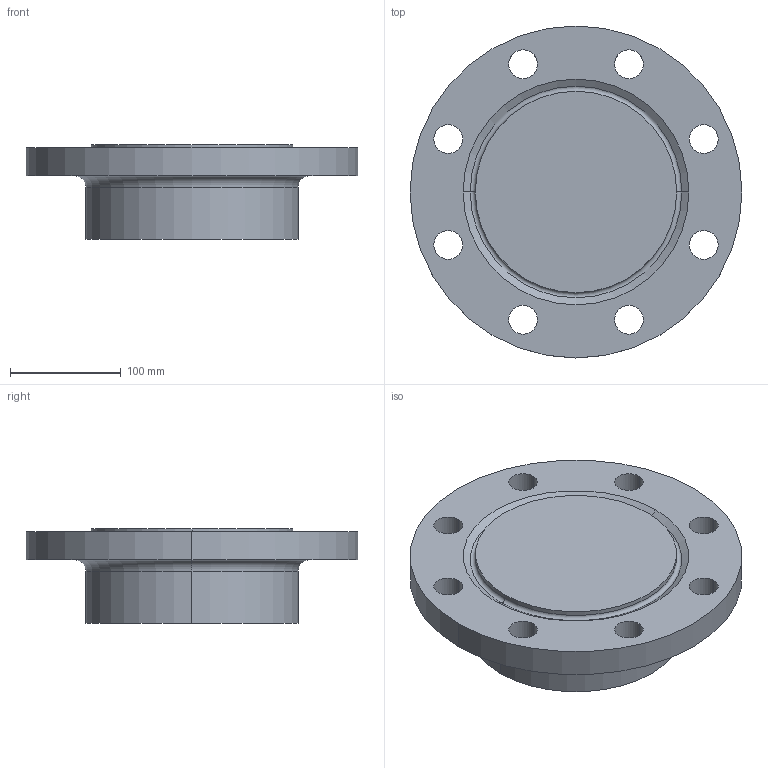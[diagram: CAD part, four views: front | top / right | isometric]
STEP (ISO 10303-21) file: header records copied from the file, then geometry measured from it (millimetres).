
FILE_DESCRIPTION (( 'STEP AP214' ), '1' );
FILE_NAME ('PN40 DN150 Type 21(i) - Type H Face.STEP', '2019-01-04T21:38:40', ( '' ), ( '' ), 'SwSTEP 2.0', 'SolidWorks 2019', '' );
FILE_SCHEMA (( 'AUTOMOTIVE_DESIGN' ));
Length unit declared in the file: millimetre
Products named in the file (1): PN40 DN150 Type 21(i) - Type H Face
Bounding box: 300 x 300 x 85 mm (x, y, z)
Volume: 3403966 mm3; surface area: 209457.4 mm2
Topology: 1 solids, 1 shells, 32 faces, 78 edges, 50 vertices
Faces by surface type: cylinder 22, torus 4, plane 4, cone 2
Entity records: 1034 total; most frequent: DIRECTION 198, CARTESIAN_POINT 161, ORIENTED_EDGE 156, AXIS2_PLACEMENT_3D 87, EDGE_CURVE 78, CIRCLE 54, EDGE_LOOP 50, VERTEX_POINT 50
